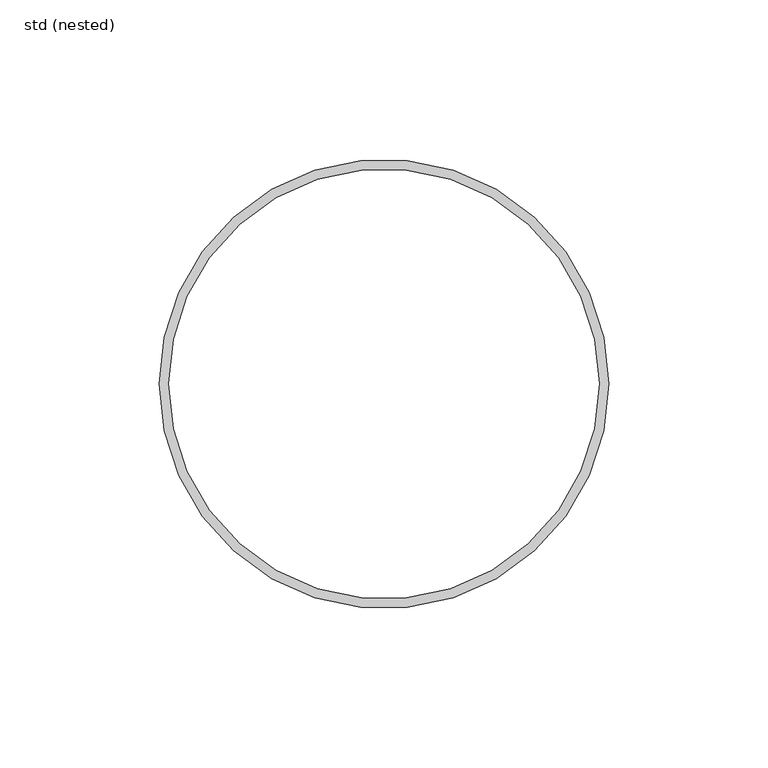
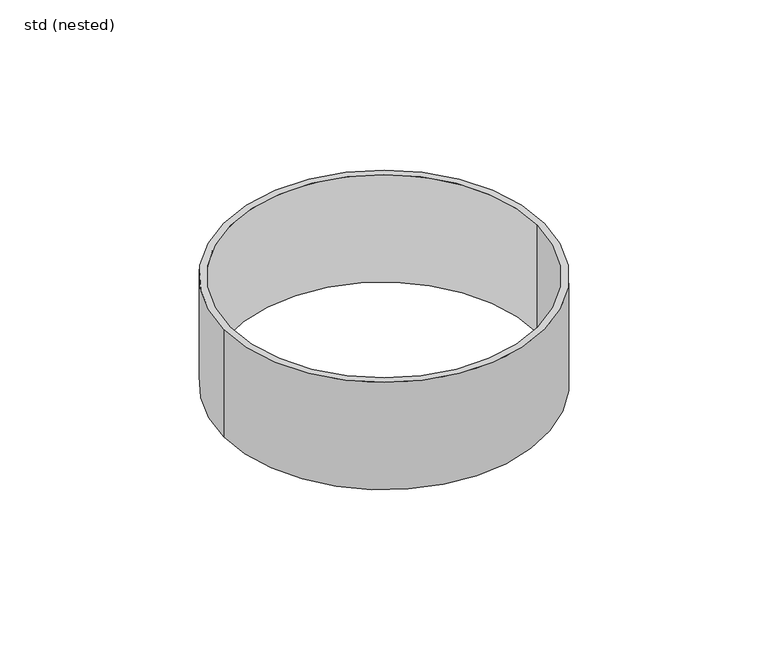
"""IFC4 building model written with IfcOpenShell, lengths in millimetres: pipe fitting geometry, ZZZ_do not use_PIF_ST_WPB_GM-X compound pipe clamp_ACO : std (nested)."""

from ifc_helpers import new_model, si_unit, point, frame, origin, origin_2d, place, context, project, spatial, circle_curve, trimmed, segment, composite_curve, outline, extrude, source, transform, mapped, element, save


def std_nested_ff61fb87(model_context):
    return source(origin(), model_context, "Body", "SweptSolid", [
        extrude(outline(composite_curve([segment(trimmed(circle_curve(origin_2d(), 70.5), [point((70.5, 0.0))], [point((-70.5, 0.0))], False, "CARTESIAN"), True, "CONTINUOUS"), segment(trimmed(circle_curve(origin_2d(), 70.5), [point((-70.5, 0.0))], [point((70.5, 0.0))], False, "CARTESIAN"), True, "CONTINUOUS")], self_intersect=False), holes=[composite_curve([segment(trimmed(circle_curve(origin_2d(), 67.5), [point((67.5, 0.0))], [point((-67.5, 0.0))], True, "CARTESIAN"), True, "CONTINUOUS"), segment(trimmed(circle_curve(origin_2d(), 67.5), [point((-67.5, 0.0))], [point((67.5, 0.0))], True, "CARTESIAN"), True, "CONTINUOUS")], self_intersect=False)]), frame((0.0, 0.0, -82.5), z_axis=(0.0, 0.0, 1.0), x_axis=(1.0, 0.0, 0.0)), (0.0, 0.0, 1.0), 50.0),
    ])


if __name__ == "__main__":
    model = new_model("IFC4")
    model_context = context("Model", 3, world=origin())
    ifc_project = project(units=[si_unit("LENGTHUNIT", "METRE", prefix="MILLI")], contexts=[model_context])
    site = spatial("IfcSite", under=ifc_project)
    building = spatial("IfcBuilding", under=site)
    placement = place(None, origin())
    std_nested_shape = std_nested_ff61fb87(model_context)
    element("IfcPipeFitting", 1, ObjectType="ZZZ_do not use_PIF_ST_WPB_GM-X compound pipe clamp_ACO : std (nested)", at=placement, inside=building, context=model_context, shape_type="MappedRepresentation", body=[
        mapped(std_nested_shape, transform((0.0, 0.0, 0.0), x_axis=(1.0, 0.0, 0.0), y_axis=(0.0, 1.0, 0.0), z_axis=(0.0, 0.0, 1.0))),
    ])
    save(model, "model.ifc")
